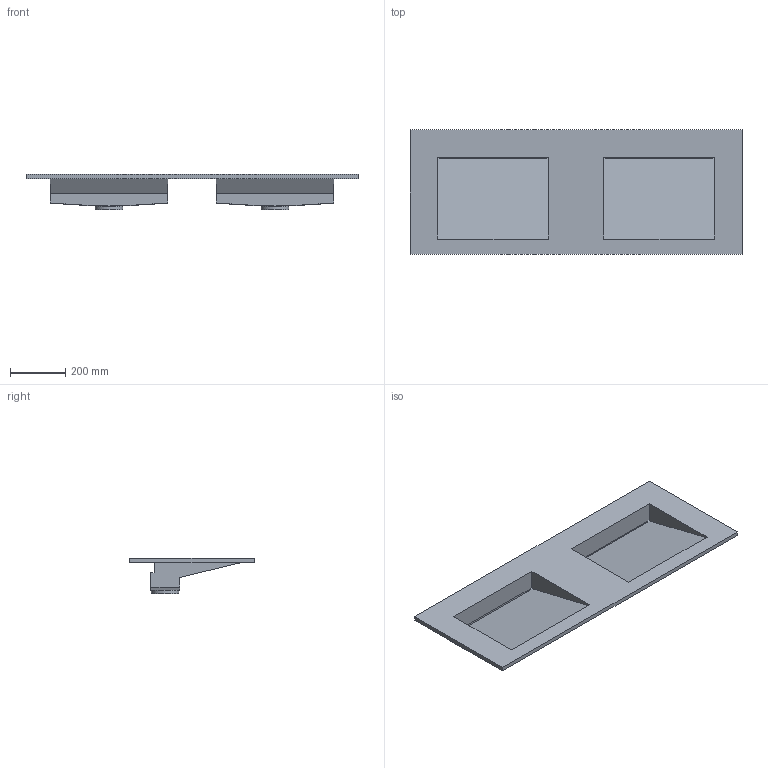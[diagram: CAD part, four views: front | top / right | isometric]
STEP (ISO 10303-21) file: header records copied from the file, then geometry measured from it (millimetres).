
FILE_DESCRIPTION(/* description */ (''),/* implementation_level */ '2;1');
FILE_NAME(/* name */ 'Cabinet Basin 1200D.stp',/* time_stamp */ '2025-10-25T10:48:15+08:00',/* author */ (''),/* organization */ (''),/* preprocessor_version */ 'ST-DEVELOPER v20',/* originating_system */ 'SIEMENS PLM Software NX2412.4001',/* authorisation */ '');
FILE_SCHEMA (('AUTOMOTIVE_DESIGN { 1 0 10303 214 3 1 1 1 }'));
Length unit declared in the file: millimetre
Products named in the file (1): Cabinet Basin 1200D
Bounding box: 1200 x 450 x 127 mm (x, y, z)
Volume: 10045293.7 mm3; surface area: 1644377.3 mm2
Topology: 1 solids, 1 shells, 85 faces, 228 edges, 146 vertices
Faces by surface type: plane 75, cone 6, cylinder 4
Full cylindrical faces by diameter (mm): 45 x2, 100 x2
Entity records: 2630 total; most frequent: CARTESIAN_POINT 570, ORIENTED_EDGE 428, DIRECTION 380, EDGE_CURVE 214, LINE 188, VECTOR 188, VERTEX_POINT 142, EDGE_LOOP 100
